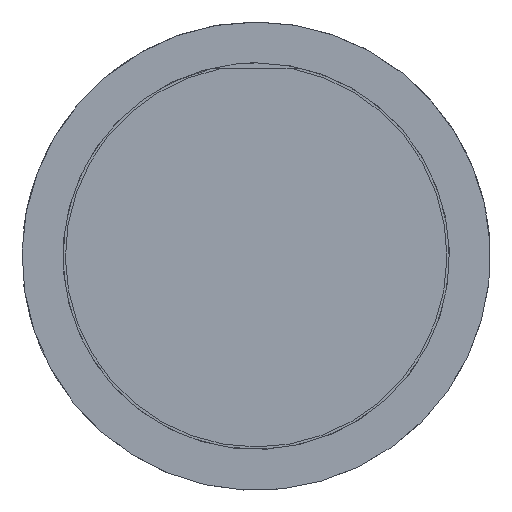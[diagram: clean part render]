
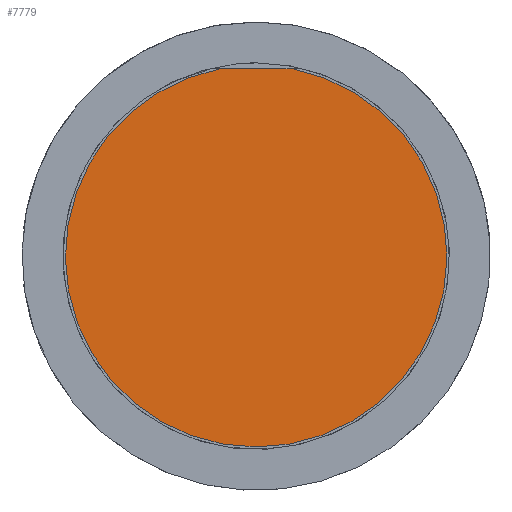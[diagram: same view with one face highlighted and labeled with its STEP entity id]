
A CAD part, front view. The second image highlights one B-rep face of the part: STEP entity #7779.
In plain terms, the highlighted planar face has unit normal (0, -1, 0).
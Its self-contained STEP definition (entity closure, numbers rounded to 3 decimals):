
#7779=ADVANCED_FACE('',(#14043),#14045,.T.);
#14043=FACE_BOUND('',#14044,.T.);
#14044=EDGE_LOOP('',(#19185,#19186));
#14045=PLANE('',#14046);
#14046=AXIS2_PLACEMENT_3D('',#14047,#14048,#14049);
#14047=CARTESIAN_POINT('',(-2042.131,-2759.902,1163.605));
#14048=DIRECTION('',(0.,-1.,0.));
#14049=DIRECTION('',(0.,0.,-1.));
#19185=ORIENTED_EDGE('',*,*,#21733,.T.);
#19186=ORIENTED_EDGE('',*,*,#21782,.F.);
#21733=EDGE_CURVE('',#25947,#25945,#25948,.T.);
#21782=EDGE_CURVE('',#25947,#25945,#26036,.T.);
#25945=VERTEX_POINT('',#35191);
#25947=VERTEX_POINT('',#35195);
#25948=LINE('',#35196,#35197);
#26036=CIRCLE('',#35747,154.);
#35191=CARTESIAN_POINT('',(-2071.851,-2759.902,1160.71));
#35195=CARTESIAN_POINT('',(-2012.41,-2759.902,1160.71));
#35196=CARTESIAN_POINT('',(-2012.41,-2759.902,1160.71));
#35197=VECTOR('',#35198,1.);
#35198=DIRECTION('',(-1.,0.,0.));
#35747=AXIS2_PLACEMENT_3D('',#35748,#35749,#35750);
#35748=CARTESIAN_POINT('',(-2042.131,-2759.902,1009.605));
#35749=DIRECTION('',(0.,1.,0.));
#35750=DIRECTION('',(0.193,0.,0.981));
